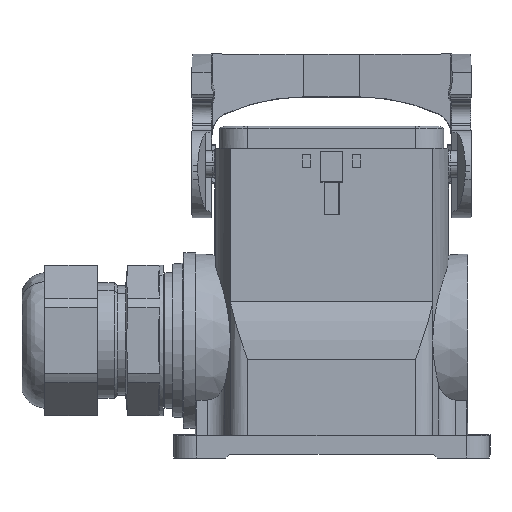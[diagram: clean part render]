
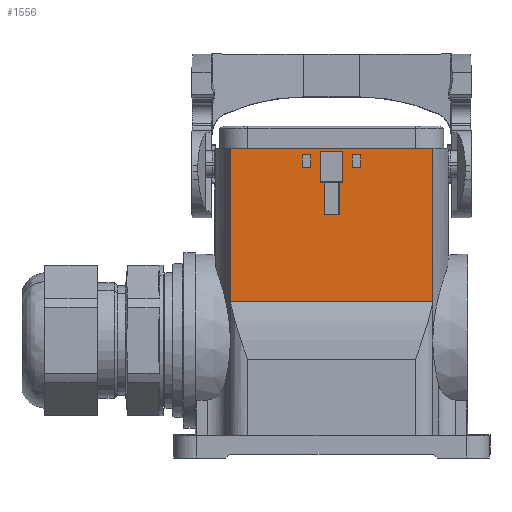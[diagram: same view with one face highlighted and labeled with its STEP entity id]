
A CAD part, front view. The second image highlights one B-rep face of the part: STEP entity #1556.
In plain terms, the highlighted planar face has unit normal (0, -1, 0).
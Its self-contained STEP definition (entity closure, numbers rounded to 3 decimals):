
#923=FACE_BOUND('',#3116,.T.);
#924=FACE_BOUND('',#3117,.T.);
#925=FACE_BOUND('',#3118,.T.);
#926=FACE_BOUND('',#3119,.T.);
#1556=ADVANCED_FACE('',(#923,#924,#925,#926),#2141,.T.);
#2141=PLANE('',#13498);
#3116=EDGE_LOOP('',(#4575,#4576,#4577,#4578));
#3117=EDGE_LOOP('',(#4579,#4580,#4581,#4582));
#3118=EDGE_LOOP('',(#4583,#4584,#4585,#4586,#4587,#4588,#4589,#4590));
#3119=EDGE_LOOP('',(#4591,#4592,#4593,#4594));
#4575=ORIENTED_EDGE('',*,*,#8786,.F.);
#4576=ORIENTED_EDGE('',*,*,#8787,.F.);
#4577=ORIENTED_EDGE('',*,*,#8788,.F.);
#4578=ORIENTED_EDGE('',*,*,#8789,.F.);
#4579=ORIENTED_EDGE('',*,*,#8790,.F.);
#4580=ORIENTED_EDGE('',*,*,#8791,.T.);
#4581=ORIENTED_EDGE('',*,*,#8792,.T.);
#4582=ORIENTED_EDGE('',*,*,#8793,.T.);
#4583=ORIENTED_EDGE('',*,*,#8794,.T.);
#4584=ORIENTED_EDGE('',*,*,#8795,.T.);
#4585=ORIENTED_EDGE('',*,*,#8796,.T.);
#4586=ORIENTED_EDGE('',*,*,#8797,.T.);
#4587=ORIENTED_EDGE('',*,*,#8798,.T.);
#4588=ORIENTED_EDGE('',*,*,#8799,.T.);
#4589=ORIENTED_EDGE('',*,*,#8800,.T.);
#4590=ORIENTED_EDGE('',*,*,#8801,.T.);
#4591=ORIENTED_EDGE('',*,*,#8802,.F.);
#4592=ORIENTED_EDGE('',*,*,#8803,.F.);
#4593=ORIENTED_EDGE('',*,*,#8804,.F.);
#4594=ORIENTED_EDGE('',*,*,#8805,.F.);
#7502=VERTEX_POINT('',#19152);
#7503=VERTEX_POINT('',#19153);
#7504=VERTEX_POINT('',#19155);
#7505=VERTEX_POINT('',#19157);
#7506=VERTEX_POINT('',#19160);
#7507=VERTEX_POINT('',#19161);
#7508=VERTEX_POINT('',#19163);
#7509=VERTEX_POINT('',#19165);
#7510=VERTEX_POINT('',#19168);
#7511=VERTEX_POINT('',#19169);
#7512=VERTEX_POINT('',#19171);
#7513=VERTEX_POINT('',#19173);
#7514=VERTEX_POINT('',#19175);
#7515=VERTEX_POINT('',#19177);
#7516=VERTEX_POINT('',#19179);
#7517=VERTEX_POINT('',#19181);
#7518=VERTEX_POINT('',#19184);
#7519=VERTEX_POINT('',#19185);
#7520=VERTEX_POINT('',#19187);
#7521=VERTEX_POINT('',#19189);
#8786=EDGE_CURVE('',#7502,#7503,#11236,.T.);
#8787=EDGE_CURVE('',#7504,#7502,#11237,.T.);
#8788=EDGE_CURVE('',#7505,#7504,#11238,.T.);
#8789=EDGE_CURVE('',#7503,#7505,#11239,.T.);
#8790=EDGE_CURVE('',#7506,#7507,#11240,.T.);
#8791=EDGE_CURVE('',#7506,#7508,#11241,.T.);
#8792=EDGE_CURVE('',#7508,#7509,#11242,.T.);
#8793=EDGE_CURVE('',#7509,#7507,#11243,.T.);
#8794=EDGE_CURVE('',#7510,#7511,#11244,.T.);
#8795=EDGE_CURVE('',#7511,#7512,#11245,.T.);
#8796=EDGE_CURVE('',#7512,#7513,#11246,.T.);
#8797=EDGE_CURVE('',#7513,#7514,#11247,.T.);
#8798=EDGE_CURVE('',#7514,#7515,#11248,.T.);
#8799=EDGE_CURVE('',#7515,#7516,#11249,.T.);
#8800=EDGE_CURVE('',#7516,#7517,#11250,.T.);
#8801=EDGE_CURVE('',#7517,#7510,#11251,.T.);
#8802=EDGE_CURVE('',#7518,#7519,#11252,.T.);
#8803=EDGE_CURVE('',#7520,#7518,#11253,.T.);
#8804=EDGE_CURVE('',#7521,#7520,#11254,.T.);
#8805=EDGE_CURVE('',#7519,#7521,#11255,.T.);
#11236=LINE('',#19151,#12281);
#11237=LINE('',#19154,#12282);
#11238=LINE('',#19156,#12283);
#11239=LINE('',#19158,#12284);
#11240=LINE('',#19159,#12285);
#11241=LINE('',#19162,#12286);
#11242=LINE('',#19164,#12287);
#11243=LINE('',#19166,#12288);
#11244=LINE('',#19167,#12289);
#11245=LINE('',#19170,#12290);
#11246=LINE('',#19172,#12291);
#11247=LINE('',#19174,#12292);
#11248=LINE('',#19176,#12293);
#11249=LINE('',#19178,#12294);
#11250=LINE('',#19180,#12295);
#11251=LINE('',#19182,#12296);
#11252=LINE('',#19183,#12297);
#11253=LINE('',#19186,#12298);
#11254=LINE('',#19188,#12299);
#11255=LINE('',#19190,#12300);
#12281=VECTOR('',#15330,1.);
#12282=VECTOR('',#15331,1.);
#12283=VECTOR('',#15332,1.);
#12284=VECTOR('',#15333,1.);
#12285=VECTOR('',#15334,1.);
#12286=VECTOR('',#15335,1.);
#12287=VECTOR('',#15336,1.);
#12288=VECTOR('',#15337,1.);
#12289=VECTOR('',#15338,1.);
#12290=VECTOR('',#15339,1.);
#12291=VECTOR('',#15340,1.);
#12292=VECTOR('',#15341,1.);
#12293=VECTOR('',#15342,1.);
#12294=VECTOR('',#15343,1.);
#12295=VECTOR('',#15344,1.);
#12296=VECTOR('',#15345,1.);
#12297=VECTOR('',#15346,1.);
#12298=VECTOR('',#15347,1.);
#12299=VECTOR('',#15348,1.);
#12300=VECTOR('',#15349,1.);
#13498=AXIS2_PLACEMENT_3D('',#19191,#15350,#15351);
#15330=DIRECTION('',(0.,0.,1.));
#15331=DIRECTION('',(1.,0.,0.));
#15332=DIRECTION('',(0.,0.,-1.));
#15333=DIRECTION('',(-1.,0.,0.));
#15334=DIRECTION('',(-1.,0.,0.));
#15335=DIRECTION('',(0.,0.,1.));
#15336=DIRECTION('',(-1.,0.,0.));
#15337=DIRECTION('',(0.,0.,-1.));
#15338=DIRECTION('',(0.017,0.,-1.));
#15339=DIRECTION('',(-1.,0.,0.));
#15340=DIRECTION('',(0.,0.,-1.));
#15341=DIRECTION('',(-1.,0.,0.));
#15342=DIRECTION('',(0.,0.,1.));
#15343=DIRECTION('',(-1.,0.,0.));
#15344=DIRECTION('',(0.017,0.,1.));
#15345=DIRECTION('',(1.,0.,0.));
#15346=DIRECTION('',(1.,0.,0.));
#15347=DIRECTION('',(0.,0.,-1.));
#15348=DIRECTION('',(-1.,0.,0.));
#15349=DIRECTION('',(0.,0.,1.));
#15350=DIRECTION('',(0.,-1.,0.));
#15351=DIRECTION('',(-1.,0.,0.));
#19151=CARTESIAN_POINT('',(-5.5,-22.5,5.7));
#19152=CARTESIAN_POINT('',(-5.5,-22.5,0.6));
#19153=CARTESIAN_POINT('',(-5.5,-22.5,4.));
#19154=CARTESIAN_POINT('',(-7.7,-22.5,0.6));
#19155=CARTESIAN_POINT('',(-7.7,-22.5,0.6));
#19156=CARTESIAN_POINT('',(-7.7,-22.5,4.));
#19157=CARTESIAN_POINT('',(-7.7,-22.5,4.));
#19158=CARTESIAN_POINT('',(-5.5,-22.5,4.));
#19159=CARTESIAN_POINT('',(26.85,-22.5,-35.001));
#19160=CARTESIAN_POINT('',(26.85,-22.5,-35.001));
#19161=CARTESIAN_POINT('',(-26.85,-22.5,-35.001));
#19162=CARTESIAN_POINT('',(26.85,-22.5,5.7));
#19163=CARTESIAN_POINT('',(26.85,-22.5,5.7));
#19164=CARTESIAN_POINT('',(0.,-22.5,5.7));
#19165=CARTESIAN_POINT('',(-26.85,-22.5,5.7));
#19166=CARTESIAN_POINT('',(-26.85,-22.5,5.7));
#19167=CARTESIAN_POINT('',(2.047,-22.5,-5.964));
#19168=CARTESIAN_POINT('',(1.86,-22.5,4.75));
#19169=CARTESIAN_POINT('',(2.001,-22.5,-3.285));
#19170=CARTESIAN_POINT('',(0.,-22.5,-3.285));
#19171=CARTESIAN_POINT('',(2.,-22.5,-3.285));
#19172=CARTESIAN_POINT('',(2.,-22.5,-6.));
#19173=CARTESIAN_POINT('',(2.,-22.5,-11.95));
#19174=CARTESIAN_POINT('',(0.,-22.5,-11.95));
#19175=CARTESIAN_POINT('',(-2.,-22.5,-11.95));
#19176=CARTESIAN_POINT('',(-2.,-22.5,-6.));
#19177=CARTESIAN_POINT('',(-2.,-22.5,-3.285));
#19178=CARTESIAN_POINT('',(0.,-22.5,-3.285));
#19179=CARTESIAN_POINT('',(-2.001,-22.5,-3.285));
#19180=CARTESIAN_POINT('',(-2.047,-22.5,-5.964));
#19181=CARTESIAN_POINT('',(-1.86,-22.5,4.75));
#19182=CARTESIAN_POINT('',(-2.,-22.5,4.75));
#19183=CARTESIAN_POINT('',(5.5,-22.5,0.6));
#19184=CARTESIAN_POINT('',(5.5,-22.5,0.6));
#19185=CARTESIAN_POINT('',(7.7,-22.5,0.6));
#19186=CARTESIAN_POINT('',(5.5,-22.5,4.));
#19187=CARTESIAN_POINT('',(5.5,-22.5,4.));
#19188=CARTESIAN_POINT('',(7.7,-22.5,4.));
#19189=CARTESIAN_POINT('',(7.7,-22.5,4.));
#19190=CARTESIAN_POINT('',(7.7,-22.5,0.6));
#19191=CARTESIAN_POINT('',(0.,-22.5,5.7));
